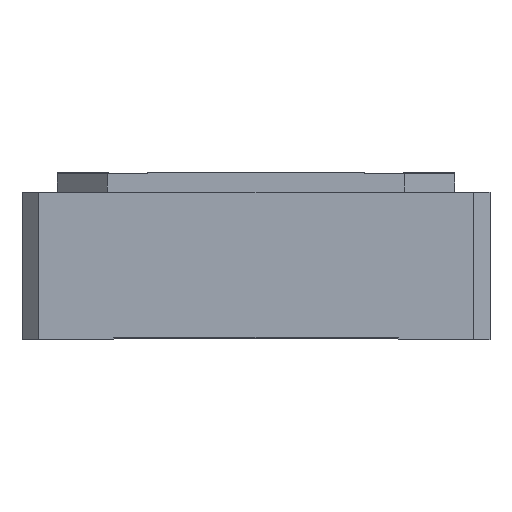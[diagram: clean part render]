
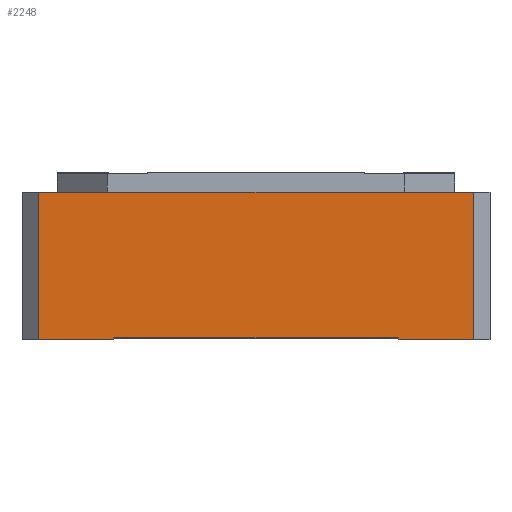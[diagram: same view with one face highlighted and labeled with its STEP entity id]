
A CAD part, top view. The second image highlights one B-rep face of the part: STEP entity #2248.
In plain terms, the highlighted planar face has unit normal (0, 0, 1).
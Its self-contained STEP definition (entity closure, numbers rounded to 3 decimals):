
#143 = VECTOR ( 'NONE', #2990, 1000. ) ;
#169 = PLANE ( 'NONE',  #1446 ) ;
#231 = CARTESIAN_POINT ( 'NONE',  ( -65., 0., 70. ) ) ;
#238 = EDGE_CURVE ( 'NONE', #443, #1595, #512, .T. ) ;
#443 = VERTEX_POINT ( 'NONE', #2144 ) ;
#456 = EDGE_CURVE ( 'NONE', #490, #1259, #3053, .T. ) ;
#490 = VERTEX_POINT ( 'NONE', #231 ) ;
#512 = LINE ( 'NONE', #3996, #1525 ) ;
#867 = CARTESIAN_POINT ( 'NONE',  ( 42.5, 0.5, 70. ) ) ;
#1063 = EDGE_LOOP ( 'NONE', ( #3846, #2751, #4511, #3342, #3639, #2140, #1426, #2572 ) ) ;
#1170 = EDGE_CURVE ( 'NONE', #2154, #1595, #2175, .T. ) ;
#1259 = VERTEX_POINT ( 'NONE', #2837 ) ;
#1322 = LINE ( 'NONE', #3971, #2442 ) ;
#1333 = VECTOR ( 'NONE', #4127, 1000. ) ;
#1426 = ORIENTED_EDGE ( 'NONE', *, *, #4419, .T. ) ;
#1446 = AXIS2_PLACEMENT_3D ( 'NONE', #3643, #2497, #1754 ) ;
#1496 = DIRECTION ( 'NONE',  ( -1., 0., 0. ) ) ;
#1525 = VECTOR ( 'NONE', #2493, 1000. ) ;
#1553 = FACE_OUTER_BOUND ( 'NONE', #1063, .T. ) ;
#1595 = VERTEX_POINT ( 'NONE', #2550 ) ;
#1695 = DIRECTION ( 'NONE',  ( 1., 0., 0. ) ) ;
#1722 = CARTESIAN_POINT ( 'NONE',  ( -70., 0., 70. ) ) ;
#1754 = DIRECTION ( 'NONE',  ( -1., 0., 0. ) ) ;
#1788 = LINE ( 'NONE', #3745, #2675 ) ;
#1832 = EDGE_CURVE ( 'NONE', #2551, #1259, #2692, .T. ) ;
#1852 = CARTESIAN_POINT ( 'NONE',  ( -70., 0., 70. ) ) ;
#2003 = DIRECTION ( 'NONE',  ( 0., 1., 0. ) ) ;
#2140 = ORIENTED_EDGE ( 'NONE', *, *, #2659, .T. ) ;
#2144 = CARTESIAN_POINT ( 'NONE',  ( -65., 44., 70. ) ) ;
#2154 = VERTEX_POINT ( 'NONE', #4051 ) ;
#2175 = LINE ( 'NONE', #4285, #4408 ) ;
#2248 = ADVANCED_FACE ( 'NONE', ( #1553 ), #169, .F. ) ;
#2442 = VECTOR ( 'NONE', #3646, 1000. ) ;
#2463 = VECTOR ( 'NONE', #4119, 1000. ) ;
#2493 = DIRECTION ( 'NONE',  ( 1., 0., 0. ) ) ;
#2497 = DIRECTION ( 'NONE',  ( 0., 0., -1. ) ) ;
#2550 = CARTESIAN_POINT ( 'NONE',  ( 65., 44., 70. ) ) ;
#2551 = VERTEX_POINT ( 'NONE', #3906 ) ;
#2572 = ORIENTED_EDGE ( 'NONE', *, *, #1170, .T. ) ;
#2659 = EDGE_CURVE ( 'NONE', #4571, #4910, #1322, .T. ) ;
#2675 = VECTOR ( 'NONE', #1496, 1000. ) ;
#2692 = LINE ( 'NONE', #4148, #1333 ) ;
#2751 = ORIENTED_EDGE ( 'NONE', *, *, #4326, .T. ) ;
#2837 = CARTESIAN_POINT ( 'NONE',  ( -42.5, 0., 70. ) ) ;
#2911 = EDGE_CURVE ( 'NONE', #4571, #2551, #1788, .T. ) ;
#2932 = LINE ( 'NONE', #2956, #143 ) ;
#2956 = CARTESIAN_POINT ( 'NONE',  ( -65., 44., 70. ) ) ;
#2990 = DIRECTION ( 'NONE',  ( 0., -1., 0. ) ) ;
#3053 = LINE ( 'NONE', #1722, #3393 ) ;
#3342 = ORIENTED_EDGE ( 'NONE', *, *, #1832, .F. ) ;
#3393 = VECTOR ( 'NONE', #1695, 1000. ) ;
#3639 = ORIENTED_EDGE ( 'NONE', *, *, #2911, .F. ) ;
#3643 = CARTESIAN_POINT ( 'NONE',  ( -70., 44., 70. ) ) ;
#3646 = DIRECTION ( 'NONE',  ( 0., -1., 0. ) ) ;
#3745 = CARTESIAN_POINT ( 'NONE',  ( 0., 0.5, 70. ) ) ;
#3846 = ORIENTED_EDGE ( 'NONE', *, *, #238, .F. ) ;
#3906 = CARTESIAN_POINT ( 'NONE',  ( -42.5, 0.5, 70. ) ) ;
#3971 = CARTESIAN_POINT ( 'NONE',  ( 42.5, 0.5, 70. ) ) ;
#3996 = CARTESIAN_POINT ( 'NONE',  ( -70., 44., 70. ) ) ;
#4051 = CARTESIAN_POINT ( 'NONE',  ( 65., 0., 70. ) ) ;
#4066 = CARTESIAN_POINT ( 'NONE',  ( 42.5, 0., 70. ) ) ;
#4119 = DIRECTION ( 'NONE',  ( 1., 0., 0. ) ) ;
#4127 = DIRECTION ( 'NONE',  ( 0., -1., 0. ) ) ;
#4148 = CARTESIAN_POINT ( 'NONE',  ( -42.5, 0.5, 70. ) ) ;
#4285 = CARTESIAN_POINT ( 'NONE',  ( 65., 44., 70. ) ) ;
#4326 = EDGE_CURVE ( 'NONE', #443, #490, #2932, .T. ) ;
#4408 = VECTOR ( 'NONE', #2003, 1000. ) ;
#4419 = EDGE_CURVE ( 'NONE', #4910, #2154, #4454, .T. ) ;
#4454 = LINE ( 'NONE', #1852, #2463 ) ;
#4511 = ORIENTED_EDGE ( 'NONE', *, *, #456, .T. ) ;
#4571 = VERTEX_POINT ( 'NONE', #867 ) ;
#4910 = VERTEX_POINT ( 'NONE', #4066 ) ;
